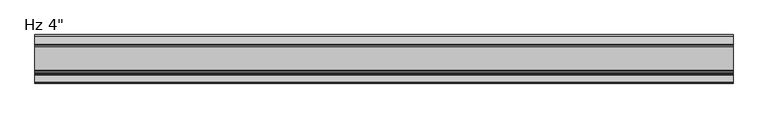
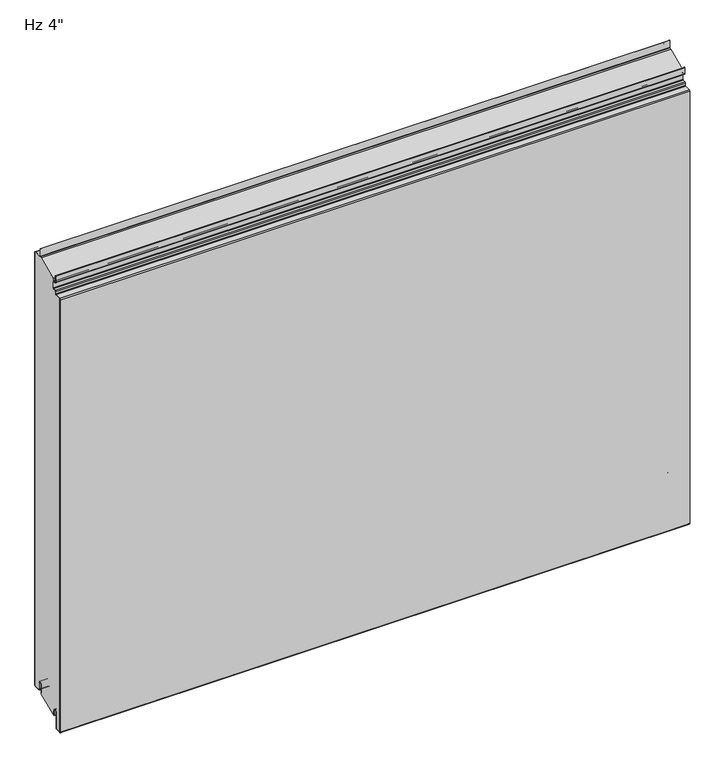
"""IFC4 building model written with IfcOpenShell, lengths in millimetres: plate geometry."""

from ifc_helpers import new_model, si_unit, point, frame, frame_2d, origin, place, context, project, spatial, polyline, circle_curve, ellipse_curve, trimmed, segment, composite_curve, outline, extrude, source, transform, mapped, element, save
from ifc_brep_helpers import plane_surface, cylinder_surface, revolved_surface, extruded_surface, advanced_brep


def plate_90d1a63a(model_context):
    return source(origin(), model_context, "Body", "SolidModel", [
        extrude(outline(composite_curve([segment(trimmed(circle_curve(frame_2d((-21.43125, 19.05)), 4.96875), [point((-16.4625, 19.05))], [point((-26.4, 19.05))], True, "CARTESIAN"), True, "CONTINUOUS"), segment(polyline([(-26.4, 19.05), (-26.4, -3.1323422), (-74.6157227, -23.01875), (-76.2, -23.01875), (-76.2, -13.5080174), (-76.99375, -13.5080174), (-76.7875, -11.9205174)]), True, "CONTINUOUS"), segment(trimmed(circle_curve(frame_2d((-81.75625, -11.9205174)), 4.96875), [point((-76.7875, -11.9205174))], [point((-86.725, -11.9205174))], True, "CARTESIAN"), True, "CONTINUOUS"), segment(polyline([(-86.725, -11.9205174), (-86.725, -50.1038221)]), True, "CONTINUOUS"), segment(trimmed(circle_curve(frame_2d((-88.10625, -50.1038221)), 1.38125), [point((-86.725, -50.1038221))], [point((-88.033961, -51.4831791))], False, "CARTESIAN"), True, "CONTINUOUS"), segment(polyline([(-88.033961, -51.4831791), (-99.146461, -52.0655606)]), True, "CONTINUOUS"), segment(trimmed(circle_curve(frame_2d((-99.21875, -50.6862035)), 1.38125), [point((-99.146461, -52.0655606))], [point((-100.6, -50.6862035))], False, "CARTESIAN"), True, "CONTINUOUS"), segment(polyline([(-100.6, -50.6862035), (-100.6, 1008.1697607)]), True, "CONTINUOUS"), segment(trimmed(circle_curve(frame_2d((-99.21875, 1008.1697607)), 1.38125), [point((-100.6, 1008.1697607))], [point((-99.291039, 1009.5491177))], False, "CARTESIAN"), True, "CONTINUOUS"), segment(polyline([(-99.291039, 1009.5491177), (-85.5895807, 1010.2671807)]), True, "CONTINUOUS"), segment(trimmed(circle_curve(frame_2d((-85.725, 1012.8511347)), 2.5875), [point((-85.5895807, 1010.2671807))], [point((-83.1375, 1012.8511347))], True, "CARTESIAN"), True, "CONTINUOUS"), segment(polyline([(-83.1375, 1012.8511347), (-83.1375, 1017.4824411)]), True, "CONTINUOUS"), segment(trimmed(circle_curve(frame_2d((-81.75625, 1017.4824411)), 1.38125), [point((-83.1375, 1017.4824411))], [point((-81.828539, 1018.8617981))], False, "CARTESIAN"), True, "CONTINUOUS"), segment(polyline([(-81.828539, 1018.8617981), (-76.0645807, 1019.1638744)]), True, "CONTINUOUS"), segment(trimmed(circle_curve(frame_2d((-76.2, 1021.7478283)), 2.5875), [point((-76.0645807, 1019.1638744))], [point((-73.6125, 1021.7478283))], True, "CARTESIAN"), True, "CONTINUOUS"), segment(polyline([(-73.6125, 1021.7478283), (-73.6125, 1044.1892934), (-24.9057308, 1065.00625), (-2.38125, 1065.00625)]), True, "CONTINUOUS"), segment(trimmed(circle_curve(frame_2d((-2.38125, 1063.625)), 1.38125), [point((-2.38125, 1065.00625))], [point((-1.0, 1063.625))], False, "CARTESIAN"), True, "CONTINUOUS"), segment(polyline([(-1.0, 1063.625), (-1.0, 3.175)]), True, "CONTINUOUS"), segment(trimmed(circle_curve(frame_2d((-2.38125, 3.175)), 1.38125), [point((-1.0, 3.175))], [point((-2.38125, 1.79375))], False, "CARTESIAN"), True, "CONTINUOUS"), segment(polyline([(-2.38125, 1.79375), (-15.08125, 1.79375)]), True, "CONTINUOUS"), segment(trimmed(circle_curve(frame_2d((-15.08125, 3.175)), 1.38125), [point((-15.08125, 1.79375))], [point((-16.4625, 3.175))], False, "CARTESIAN"), True, "CONTINUOUS"), segment(polyline([(-16.4625, 3.175), (-16.4625, 19.05)]), True, "CONTINUOUS")], self_intersect=False)), frame((-730.0, 0.0, 0.0), z_axis=(1.0, 0.0, 0.0), x_axis=(0.0, 1.0, 0.0)), (0.0, 0.0, 1.0), 1460.0),
        extrude(outline(composite_curve([segment(polyline([(-25.4, 0.79375), (-26.4, 0.79375), (-26.4, 19.05)]), True, "CONTINUOUS"), segment(trimmed(circle_curve(frame_2d((-21.43125, 19.05)), 4.96875), [point((-26.4, 19.05))], [point((-16.4625, 19.05))], False, "CARTESIAN"), True, "CONTINUOUS"), segment(polyline([(-16.4625, 19.05), (-16.4625, 3.175)]), True, "CONTINUOUS"), segment(trimmed(circle_curve(frame_2d((-15.08125, 3.175)), 1.38125), [point((-16.4625, 3.175))], [point((-15.08125, 1.79375))], True, "CARTESIAN"), True, "CONTINUOUS"), segment(polyline([(-15.08125, 1.79375), (-2.38125, 1.79375)]), True, "CONTINUOUS"), segment(trimmed(circle_curve(frame_2d((-2.38125, 3.175)), 1.38125), [point((-2.38125, 1.79375))], [point((-1.0, 3.175))], True, "CARTESIAN"), True, "CONTINUOUS"), segment(polyline([(-1.0, 3.175), (-1.0, 1063.625)]), True, "CONTINUOUS"), segment(trimmed(circle_curve(frame_2d((-2.38125, 1063.625)), 1.38125), [point((-1.0, 1063.625))], [point((-2.38125, 1065.00625))], True, "CARTESIAN"), True, "CONTINUOUS"), segment(polyline([(-2.38125, 1065.00625), (-19.446875, 1065.00625)]), True, "CONTINUOUS"), segment(trimmed(circle_curve(frame_2d((-19.446875, 1067.59375)), 2.5875), [point((-19.446875, 1065.00625))], [point((-22.034375, 1067.59375))], False, "CARTESIAN"), True, "CONTINUOUS"), segment(polyline([(-22.034375, 1067.59375), (-22.034375, 1085.05625), (-21.034375, 1085.05625), (-21.034375, 1067.59375)]), True, "CONTINUOUS"), segment(trimmed(circle_curve(frame_2d((-19.446875, 1067.59375)), 1.5875), [point((-21.034375, 1067.59375))], [point((-19.446875, 1066.00625))], True, "CARTESIAN"), True, "CONTINUOUS"), segment(polyline([(-19.446875, 1066.00625), (-2.38125, 1066.00625)]), True, "CONTINUOUS"), segment(trimmed(circle_curve(frame_2d((-2.38125, 1063.625)), 2.38125), [point((-2.38125, 1066.00625))], [point((0.0, 1063.625))], False, "CARTESIAN"), True, "CONTINUOUS"), segment(polyline([(0.0, 1063.625), (0.0, 3.175)]), True, "CONTINUOUS"), segment(trimmed(circle_curve(frame_2d((-2.38125, 3.175)), 2.38125), [point((0.0, 3.175))], [point((-2.38125, 0.79375))], False, "CARTESIAN"), True, "CONTINUOUS"), segment(polyline([(-2.38125, 0.79375), (-15.08125, 0.79375)]), True, "CONTINUOUS"), segment(trimmed(circle_curve(frame_2d((-15.08125, 3.175)), 2.38125), [point((-15.08125, 0.79375))], [point((-17.4625, 3.175))], False, "CARTESIAN"), True, "CONTINUOUS"), segment(polyline([(-17.4625, 3.175), (-17.4625, 19.05)]), True, "CONTINUOUS"), segment(trimmed(circle_curve(frame_2d((-21.43125, 19.05)), 3.96875), [point((-17.4625, 19.05))], [point((-25.4, 19.05))], True, "CARTESIAN"), True, "CONTINUOUS"), segment(polyline([(-25.4, 19.05), (-25.4, 0.79375)]), True, "CONTINUOUS")], self_intersect=False)), frame((-730.0, 0.0, 0.0), z_axis=(1.0, 0.0, 0.0), x_axis=(0.0, 1.0, 0.0)), (0.0, 0.0, 1.0), 1460.0),
        advanced_brep(
        [(-730.0, -76.2, -23.2314549), (-730.0, -77.7875, -23.2314549), (-730.0, -77.7875, -11.9205174), (-730.0, -85.725, -11.9205174), (-730.0, -85.725, -50.1038221), (-730.0, -87.981625, -52.4818086), (-730.0, -99.094125, -53.0641901), (-730.0, -101.6, -50.6862035), (-730.0, -101.6, 1008.1697607), (-730.0, -99.343375, 1010.5477473), (-730.0, -85.6419167, 1011.2658103), (-730.0, -84.1375, 1012.8511347), (-730.0, -84.1375, 1017.4824411), (-730.0, -81.880875, 1019.8604276), (-730.0, -76.1169167, 1020.1625039), (-730.0, -74.6125, 1021.7478283), (-730.0, -74.6125, 1036.6232326), (-730.0, -76.2, 1038.2107326), (-730.0, -80.3671875, 1038.2107326), (-730.0, -82.7484375, 1040.5919826), (-730.0, -82.7484375, 1055.0836032), (-730.0, -80.9546875, 1055.0836032), (-730.0, -80.9546875, 1045.3544826), (-730.0, -81.7484375, 1045.3544826), (-730.0, -81.7484375, 1040.5919826), (-730.0, -80.3671875, 1039.2107326), (-730.0, -76.2, 1039.2107326), (-730.0, -73.6125, 1036.6232326), (-730.0, -73.6125, 1021.7478283), (-730.0, -76.0645807, 1019.1638744), (-730.0, -81.828539, 1018.8617981), (-730.0, -83.1375, 1017.4824411), (-730.0, -83.1375, 1012.8511347), (-730.0, -85.5895807, 1010.2671807), (-730.0, -99.291039, 1009.5491177), (-730.0, -100.6, 1008.1697607), (-730.0, -100.6, -50.6862035), (-730.0, -99.146461, -52.0655606), (-730.0, -88.033961, -51.4831791), (-730.0, -86.725, -50.1038221), (-730.0, -86.725, -11.9205174), (-730.0, -76.7875, -11.9205174), (-730.0, -76.99375, -13.5080174), (-730.0, -76.2, -13.5080174), (730.0, -76.2, -23.2314549), (730.0, -76.2, -13.5080174), (730.0, -76.99375, -13.5080174), (730.0, -76.7875, -11.9205174), (730.0, -86.725, -11.9205174), (730.0, -86.725, -50.1038221), (730.0, -88.033961, -51.4831791), (730.0, -99.146461, -52.0655606), (730.0, -100.6, -50.6862035), (730.0, -100.6, 1008.1697607), (730.0, -99.291039, 1009.5491177), (730.0, -85.5895807, 1010.2671807), (730.0, -83.1375, 1012.8511347), (730.0, -83.1375, 1017.4824411), (730.0, -81.828539, 1018.8617981), (730.0, -76.0645807, 1019.1638744), (730.0, -73.6125, 1021.7478283), (730.0, -73.6125, 1036.6232326), (730.0, -76.2, 1039.2107326), (730.0, -80.3671875, 1039.2107326), (730.0, -81.7484375, 1040.5919826), (730.0, -81.7484375, 1045.3544826), (730.0, -80.9546875, 1045.3544826), (730.0, -80.9546875, 1055.0836032), (730.0, -82.7484375, 1055.0836032), (730.0, -82.7484375, 1040.5919826), (730.0, -80.3671875, 1038.2107326), (730.0, -76.2, 1038.2107326), (730.0, -74.6125, 1036.6232326), (730.0, -74.6125, 1021.7478283), (730.0, -76.1169167, 1020.1625039), (730.0, -81.880875, 1019.8604276), (730.0, -84.1375, 1017.4824411), (730.0, -84.1375, 1012.8511347), (730.0, -85.6419167, 1011.2658103), (730.0, -99.343375, 1010.5477473), (730.0, -101.6, 1008.1697607), (730.0, -101.6, -50.6862035), (730.0, -99.094125, -53.0641901), (730.0, -87.981625, -52.4818086), (730.0, -85.725, -50.1038221), (730.0, -85.725, -11.9205174), (730.0, -77.7875, -11.9205174), (730.0, -77.7875, -23.2314549)],
        [
            (0, 1, circle_curve(frame((-730.0, -76.99375, -23.2314549), z_axis=(-1.0, 0.0, 0.0), x_axis=(0.0, 0.0, -1.0)), 0.79375)),
            (1, 2),
            (2, 3, circle_curve(frame((-730.0, -81.75625, -11.9205174), z_axis=(1.0, 0.0, 0.0), x_axis=(0.0, 0.0, -1.0)), 3.96875)),
            (3, 4),
            (4, 5, circle_curve(frame((-730.0, -88.10625, -50.1038221), z_axis=(-1.0, 0.0, 0.0), x_axis=(0.0, 0.0, -1.0)), 2.38125)),
            (5, 6),
            (6, 7, circle_curve(frame((-730.0, -99.21875, -50.6862035), z_axis=(-1.0, 0.0, 0.0), x_axis=(0.0, 0.0, -1.0)), 2.38125)),
            (7, 8),
            (8, 9, circle_curve(frame((-730.0, -99.21875, 1008.1697607), z_axis=(-1.0, 0.0, 0.0), x_axis=(0.0, 0.0, -1.0)), 2.38125)),
            (9, 10),
            (10, 11, circle_curve(frame((-730.0, -85.725, 1012.8511347), z_axis=(1.0, 0.0, 0.0), x_axis=(0.0, 0.0, -1.0)), 1.5875)),
            (11, 12),
            (12, 13, circle_curve(frame((-730.0, -81.75625, 1017.4824411), z_axis=(-1.0, 0.0, 0.0), x_axis=(0.0, 0.0, -1.0)), 2.38125)),
            (13, 14),
            (14, 15, circle_curve(frame((-730.0, -76.2, 1021.7478283), z_axis=(1.0, 0.0, 0.0), x_axis=(0.0, 0.0, -1.0)), 1.5875)),
            (15, 16),
            (16, 17, circle_curve(frame((-730.0, -76.2, 1036.6232326), z_axis=(1.0, 0.0, 0.0), x_axis=(0.0, 0.0, -1.0)), 1.5875)),
            (17, 18),
            (18, 19, circle_curve(frame((-730.0, -80.3671875, 1040.5919826), z_axis=(-1.0, 0.0, 0.0), x_axis=(0.0, 0.0, -1.0)), 2.38125)),
            (19, 20),
            (20, 21, ellipse_curve(frame((-730.0, -81.8515625, 1055.0836032), z_axis=(-1.0, 0.0, 0.0), x_axis=(0.0, 1.0, 0.0)), 0.896875, 0.7852275)),
            (21, 22),
            (22, 23),
            (23, 24),
            (24, 25, circle_curve(frame((-730.0, -80.3671875, 1040.5919826), z_axis=(1.0, 0.0, 0.0), x_axis=(0.0, 0.0, -1.0)), 1.38125)),
            (25, 26),
            (26, 27, circle_curve(frame((-730.0, -76.2, 1036.6232326), z_axis=(-1.0, 0.0, 0.0), x_axis=(0.0, 0.0, -1.0)), 2.5875)),
            (27, 28),
            (28, 29, circle_curve(frame((-730.0, -76.2, 1021.7478283), z_axis=(-1.0, 0.0, 0.0), x_axis=(0.0, 0.0, -1.0)), 2.5875)),
            (29, 30),
            (30, 31, circle_curve(frame((-730.0, -81.75625, 1017.4824411), z_axis=(1.0, 0.0, 0.0), x_axis=(0.0, 0.0, -1.0)), 1.38125)),
            (31, 32),
            (32, 33, circle_curve(frame((-730.0, -85.725, 1012.8511347), z_axis=(-1.0, 0.0, 0.0), x_axis=(0.0, 0.0, -1.0)), 2.5875)),
            (33, 34),
            (34, 35, circle_curve(frame((-730.0, -99.21875, 1008.1697607), z_axis=(1.0, 0.0, 0.0), x_axis=(0.0, 0.0, -1.0)), 1.38125)),
            (35, 36),
            (36, 37, circle_curve(frame((-730.0, -99.21875, -50.6862035), z_axis=(1.0, 0.0, 0.0), x_axis=(0.0, 0.0, -1.0)), 1.38125)),
            (37, 38),
            (38, 39, circle_curve(frame((-730.0, -88.10625, -50.1038221), z_axis=(1.0, 0.0, 0.0), x_axis=(0.0, 0.0, -1.0)), 1.38125)),
            (39, 40),
            (40, 41, circle_curve(frame((-730.0, -81.75625, -11.9205174), z_axis=(-1.0, 0.0, 0.0), x_axis=(0.0, 0.0, -1.0)), 4.96875)),
            (41, 42),
            (42, 43),
            (43, 0),
            (44, 45),
            (45, 46),
            (46, 47),
            (47, 48, circle_curve(frame((730.0, -81.75625, -11.9205174), z_axis=(1.0, 0.0, 0.0), x_axis=(0.0, 0.0, -1.0)), 4.96875)),
            (48, 49),
            (49, 50, circle_curve(frame((730.0, -88.10625, -50.1038221), z_axis=(-1.0, 0.0, 0.0), x_axis=(0.0, 0.0, -1.0)), 1.38125)),
            (50, 51),
            (51, 52, circle_curve(frame((730.0, -99.21875, -50.6862035), z_axis=(-1.0, 0.0, 0.0), x_axis=(0.0, 0.0, -1.0)), 1.38125)),
            (52, 53),
            (53, 54, circle_curve(frame((730.0, -99.21875, 1008.1697607), z_axis=(-1.0, 0.0, 0.0), x_axis=(0.0, 0.0, -1.0)), 1.38125)),
            (54, 55),
            (55, 56, circle_curve(frame((730.0, -85.725, 1012.8511347), z_axis=(1.0, 0.0, 0.0), x_axis=(0.0, 0.0, -1.0)), 2.5875)),
            (56, 57),
            (57, 58, circle_curve(frame((730.0, -81.75625, 1017.4824411), z_axis=(-1.0, 0.0, 0.0), x_axis=(0.0, 0.0, -1.0)), 1.38125)),
            (58, 59),
            (59, 60, circle_curve(frame((730.0, -76.2, 1021.7478283), z_axis=(1.0, 0.0, 0.0), x_axis=(0.0, 0.0, -1.0)), 2.5875)),
            (60, 61),
            (61, 62, circle_curve(frame((730.0, -76.2, 1036.6232326), z_axis=(1.0, 0.0, 0.0), x_axis=(0.0, 0.0, -1.0)), 2.5875)),
            (62, 63),
            (63, 64, circle_curve(frame((730.0, -80.3671875, 1040.5919826), z_axis=(-1.0, 0.0, 0.0), x_axis=(0.0, 0.0, -1.0)), 1.38125)),
            (64, 65),
            (65, 66),
            (66, 67),
            (67, 68, ellipse_curve(frame((730.0, -81.8515625, 1055.0836032), z_axis=(1.0, 0.0, 0.0), x_axis=(0.0, 1.0, 0.0)), 0.896875, 0.7852275)),
            (68, 69),
            (69, 70, circle_curve(frame((730.0, -80.3671875, 1040.5919826), z_axis=(1.0, 0.0, 0.0), x_axis=(0.0, 0.0, -1.0)), 2.38125)),
            (70, 71),
            (71, 72, circle_curve(frame((730.0, -76.2, 1036.6232326), z_axis=(-1.0, 0.0, 0.0), x_axis=(0.0, 0.0, -1.0)), 1.5875)),
            (72, 73),
            (73, 74, circle_curve(frame((730.0, -76.2, 1021.7478283), z_axis=(-1.0, 0.0, 0.0), x_axis=(0.0, 0.0, -1.0)), 1.5875)),
            (74, 75),
            (75, 76, circle_curve(frame((730.0, -81.75625, 1017.4824411), z_axis=(1.0, 0.0, 0.0), x_axis=(0.0, 0.0, -1.0)), 2.38125)),
            (76, 77),
            (77, 78, circle_curve(frame((730.0, -85.725, 1012.8511347), z_axis=(-1.0, 0.0, 0.0), x_axis=(0.0, 0.0, -1.0)), 1.5875)),
            (78, 79),
            (79, 80, circle_curve(frame((730.0, -99.21875, 1008.1697607), z_axis=(1.0, 0.0, 0.0), x_axis=(0.0, 0.0, -1.0)), 2.38125)),
            (80, 81),
            (81, 82, circle_curve(frame((730.0, -99.21875, -50.6862035), z_axis=(1.0, 0.0, 0.0), x_axis=(0.0, 0.0, -1.0)), 2.38125)),
            (82, 83),
            (83, 84, circle_curve(frame((730.0, -88.10625, -50.1038221), z_axis=(1.0, 0.0, 0.0), x_axis=(0.0, 0.0, -1.0)), 2.38125)),
            (84, 85),
            (85, 86, circle_curve(frame((730.0, -81.75625, -11.9205174), z_axis=(-1.0, 0.0, 0.0), x_axis=(0.0, 0.0, -1.0)), 3.96875)),
            (86, 87),
            (87, 44, circle_curve(frame((730.0, -76.99375, -23.2314549), z_axis=(1.0, 0.0, 0.0), x_axis=(0.0, 0.0, -1.0)), 0.79375)),
            (36, 52),
            (51, 37),
            (50, 38),
            (49, 39),
            (48, 40),
            (47, 41),
            (42, 46),
            (45, 43),
            (22, 66),
            (65, 23),
            (21, 67),
            (20, 68),
            (34, 54),
            (53, 35),
            (32, 56),
            (55, 33),
            (30, 58),
            (57, 31),
            (28, 60),
            (59, 29),
            (24, 64),
            (63, 25),
            (26, 62),
            (61, 27),
            (19, 69),
            (17, 71),
            (70, 18),
            (15, 73),
            (72, 16),
            (13, 75),
            (74, 14),
            (11, 77),
            (76, 12),
            (9, 79),
            (78, 10),
            (7, 81),
            (80, 8),
            (5, 83),
            (82, 6),
            (3, 85),
            (84, 4),
            (1, 87),
            (86, 2),
            (44, 0),
        ],
        [
            plane_surface(frame((-730.0, -101.6, 533.4), z_axis=(-1.0, 0.0, 0.0), x_axis=(0.0, -1.0, 0.0))),
            plane_surface(frame((730.0, -101.6, 533.4), z_axis=(1.0, 0.0, 0.0), x_axis=(0.0, -1.0, 0.0))),
            revolved_surface(polyline([(730.0, -99.21875, -52.0674535), (-730.0, -99.21875, -52.0674535)]), (-730.0, -99.21875, -50.6862035), (1.0, 0.0, 0.0)),
            plane_surface(frame((-730.0, -88.033961, -51.4831791), z_axis=(0.0, -0.05233595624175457, 0.9986295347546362), x_axis=(1.0, 0.0, 0.0))),
            revolved_surface(polyline([(730.0, -88.10625, -51.485072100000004), (-730.0, -88.10625, -51.485072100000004)]), (-730.0, -88.10625, -50.1038221), (1.0, 0.0, 0.0)),
            plane_surface(frame((-730.0, -86.725, -11.9205174), z_axis=(0.0, -1.0, 0.0), x_axis=(1.0, 0.0, 0.0))),
            cylinder_surface(frame((-730.0, -81.75625, -11.9205174), z_axis=(-1.0, 0.0, 0.0), x_axis=(0.0, 0.0, -1.0)), 4.96875),
            plane_surface(frame((-730.0, -76.2, -13.5080174), z_axis=(0.0, 0.0, 1.0), x_axis=(1.0, 0.0, 0.0))),
            plane_surface(frame((-730.0, -76.99375, -13.5080174), z_axis=(0.0, 0.9916655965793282, -0.1288384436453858), x_axis=(1.0, 0.0, 0.0))),
            plane_surface(frame((-730.0, -81.7484375, 1045.3544826), z_axis=(0.0, 0.0, -1.0), x_axis=(1.0, 0.0, 0.0))),
            plane_surface(frame((-730.0, -80.9546875, 1045.3544826), z_axis=(0.0, 1.0, 0.0), x_axis=(1.0, 0.0, 0.0))),
            extruded_surface(trimmed(ellipse_curve(frame((-730.0, -81.8515625, 1055.0836032), z_axis=(1.0, 0.0, 0.0), x_axis=(0.0, 1.0, 0.0)), 0.896875, 0.7852275), [point((-730.0, -80.9546875, 1055.0836032))], [point((-730.0, -82.7484375, 1055.0836032))], True, "CARTESIAN"), (1460.0, 0.0, 0.0), 1460.0),
            revolved_surface(polyline([(730.0, -99.21875, 1006.7885107), (-730.0, -99.21875, 1006.7885107)]), (-730.0, -99.21875, 1008.1697607), (1.0, 0.0, 0.0)),
            cylinder_surface(frame((-730.0, -85.725, 1012.8511347), z_axis=(-1.0, 0.0, 0.0), x_axis=(0.0, 0.0, -1.0)), 2.5875),
            plane_surface(frame((-730.0, -99.291039, 1009.5491177), z_axis=(0.0, 0.05233595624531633, -0.9986295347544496), x_axis=(1.0, 0.0, 0.0))),
            plane_surface(frame((-730.0, -100.6, -50.6862035), z_axis=(0.0, 1.0, 0.0), x_axis=(1.0, 0.0, 0.0))),
            revolved_surface(polyline([(730.0, -81.75625, 1016.1011910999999), (-730.0, -81.75625, 1016.1011910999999)]), (-730.0, -81.75625, 1017.4824411), (1.0, 0.0, 0.0)),
            cylinder_surface(frame((-730.0, -76.2, 1021.7478283), z_axis=(-1.0, 0.0, 0.0), x_axis=(0.0, 0.0, -1.0)), 2.5875),
            plane_surface(frame((-730.0, -81.828539, 1018.8617981), z_axis=(0.0, 0.052335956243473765, -0.9986295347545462), x_axis=(1.0, 0.0, 0.0))),
            plane_surface(frame((-730.0, -83.1375, 1012.8511347), z_axis=(0.0, 1.0, 0.0), x_axis=(1.0, 0.0, 0.0))),
            revolved_surface(polyline([(730.0, -80.3671875, 1039.2107326), (-730.0, -80.3671875, 1039.2107326)]), (-730.0, -80.3671875, 1040.5919826), (1.0, 0.0, 0.0)),
            cylinder_surface(frame((-730.0, -76.2, 1036.6232326), z_axis=(-1.0, 0.0, 0.0), x_axis=(0.0, 0.0, -1.0)), 2.5875),
            plane_surface(frame((-730.0, -76.2, 1039.2107326), z_axis=(0.0, 0.0, 1.0), x_axis=(1.0, 0.0, 0.0))),
            plane_surface(frame((-730.0, -81.7484375, 1040.5919826), z_axis=(0.0, 1.0, 0.0), x_axis=(1.0, 0.0, 0.0))),
            plane_surface(frame((-730.0, -82.7484375, 1055.0836032), z_axis=(0.0, -1.0, 0.0), x_axis=(1.0, 0.0, 0.0))),
            plane_surface(frame((-730.0, -80.3671875, 1038.2107326), z_axis=(0.0, 0.0, -1.0), x_axis=(1.0, 0.0, 0.0))),
            cylinder_surface(frame((-730.0, -80.3671875, 1040.5919826), z_axis=(-1.0, 0.0, 0.0), x_axis=(0.0, 0.0, -1.0)), 2.38125),
            plane_surface(frame((-730.0, -73.6125, 1021.7478283), z_axis=(0.0, 1.0, 0.0), x_axis=(1.0, 0.0, 0.0))),
            plane_surface(frame((-730.0, -74.6125, 1036.6232326), z_axis=(0.0, -1.0, 0.0), x_axis=(1.0, 0.0, 0.0))),
            plane_surface(frame((-730.0, -76.1169167, 1020.1625039), z_axis=(0.0, -0.05233595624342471, 0.9986295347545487), x_axis=(1.0, 0.0, 0.0))),
            revolved_surface(polyline([(730.0, -76.2, 1020.1603283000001), (-730.0, -76.2, 1020.1603283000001)]), (-730.0, -76.2, 1021.7478283), (1.0, 0.0, 0.0)),
            revolved_surface(polyline([(730.0, -76.2, 1035.0357325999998), (-730.0, -76.2, 1035.0357325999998)]), (-730.0, -76.2, 1036.6232326), (1.0, 0.0, 0.0)),
            plane_surface(frame((-730.0, -84.1375, 1017.4824411), z_axis=(0.0, -1.0, 0.0), x_axis=(1.0, 0.0, 0.0))),
            plane_surface(frame((-730.0, -85.6419167, 1011.2658103), z_axis=(0.0, -0.05233595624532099, 0.9986295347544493), x_axis=(1.0, 0.0, 0.0))),
            revolved_surface(polyline([(730.0, -85.725, 1011.2636347), (-730.0, -85.725, 1011.2636347)]), (-730.0, -85.725, 1012.8511347), (1.0, 0.0, 0.0)),
            cylinder_surface(frame((-730.0, -81.75625, 1017.4824411), z_axis=(-1.0, 0.0, 0.0), x_axis=(0.0, 0.0, -1.0)), 2.38125),
            plane_surface(frame((-730.0, -101.6, 1008.1697607), z_axis=(0.0, -1.0, 0.0), x_axis=(1.0, 0.0, 0.0))),
            plane_surface(frame((-730.0, -99.094125, -53.0641901), z_axis=(0.0, 0.05233595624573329, -0.9986295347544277), x_axis=(1.0, 0.0, 0.0))),
            cylinder_surface(frame((-730.0, -99.21875, -50.6862035), z_axis=(-1.0, 0.0, 0.0), x_axis=(0.0, 0.0, -1.0)), 2.38125),
            cylinder_surface(frame((-730.0, -99.21875, 1008.1697607), z_axis=(-1.0, 0.0, 0.0), x_axis=(0.0, 0.0, -1.0)), 2.38125),
            plane_surface(frame((-730.0, -85.725, -50.1038221), z_axis=(0.0, 1.0, 0.0), x_axis=(1.0, 0.0, 0.0))),
            plane_surface(frame((-730.0, -77.7875, -11.9205174), z_axis=(0.0, -1.0, 0.0), x_axis=(1.0, 0.0, 0.0))),
            revolved_surface(polyline([(730.0, -81.75625, -15.8892674), (-730.0, -81.75625, -15.8892674)]), (-730.0, -81.75625, -11.9205174), (1.0, 0.0, 0.0)),
            cylinder_surface(frame((-730.0, -88.10625, -50.1038221), z_axis=(-1.0, 0.0, 0.0), x_axis=(0.0, 0.0, -1.0)), 2.38125),
            plane_surface(frame((-730.0, -76.2, -23.2314549), z_axis=(0.0, 1.0, 0.0), x_axis=(1.0, 0.0, 0.0))),
            cylinder_surface(frame((-730.0, -76.99375, -23.2314549), z_axis=(-1.0, 0.0, 0.0), x_axis=(0.0, 0.0, -1.0)), 0.79375),
        ],
        [
            (0, [[1, 2, 3, 4, 5, 6, 7, 8, 9, 10, 11, 12, 13, 14, 15, 16, 17, 18, 19, 20, 21, 22, 23, 24, 25, 26, 27, 28, 29, 30, 31, 32, 33, 34, 35, 36, 37, 38, 39, 40, 41, 42, 43, 44]]),
            (1, [[45, 46, 47, 48, 49, 50, 51, 52, 53, 54, 55, 56, 57, 58, 59, 60, 61, 62, 63, 64, 65, 66, 67, 68, 69, 70, 71, 72, 73, 74, 75, 76, 77, 78, 79, 80, 81, 82, 83, 84, 85, 86, 87, 88]]),
            (2, [[89, -52, 90, -37]]),
            (3, [[-90, -51, 91, -38]]),
            (4, [[-91, -50, 92, -39]]),
            (5, [[-92, -49, 93, -40]]),
            (6, [[-93, -48, 94, -41]]),
            (7, [[95, -46, 96, -43]]),
            (8, [[-94, -47, -95, -42]]),
            (9, [[97, -66, 98, -23]]),
            (10, [[99, -67, -97, -22]]),
            (11, [[100, -68, -99, -21]]),
            (12, [[101, -54, 102, -35]]),
            (13, [[103, -56, 104, -33]]),
            (14, [[-104, -55, -101, -34]]),
            (15, [[-102, -53, -89, -36]]),
            (16, [[105, -58, 106, -31]]),
            (17, [[107, -60, 108, -29]]),
            (18, [[-108, -59, -105, -30]]),
            (19, [[-106, -57, -103, -32]]),
            (20, [[109, -64, 110, -25]]),
            (21, [[111, -62, 112, -27]]),
            (22, [[-110, -63, -111, -26]]),
            (23, [[-98, -65, -109, -24]]),
            (24, [[113, -69, -100, -20]]),
            (25, [[114, -71, 115, -18]]),
            (26, [[-115, -70, -113, -19]]),
            (27, [[-112, -61, -107, -28]]),
            (28, [[116, -73, 117, -16]]),
            (29, [[118, -75, 119, -14]]),
            (30, [[-119, -74, -116, -15]]),
            (31, [[-117, -72, -114, -17]]),
            (32, [[120, -77, 121, -12]]),
            (33, [[122, -79, 123, -10]]),
            (34, [[-123, -78, -120, -11]]),
            (35, [[-121, -76, -118, -13]]),
            (36, [[124, -81, 125, -8]]),
            (37, [[126, -83, 127, -6]]),
            (38, [[-127, -82, -124, -7]]),
            (39, [[-125, -80, -122, -9]]),
            (40, [[128, -85, 129, -4]]),
            (41, [[130, -87, 131, -2]]),
            (42, [[-131, -86, -128, -3]]),
            (43, [[-129, -84, -126, -5]]),
            (44, [[-96, -45, 132, -44]]),
            (45, [[-132, -88, -130, -1]]),
        ],
    ),
    ])


if __name__ == "__main__":
    model = new_model("IFC4")
    model_context = context("Model", 3, world=origin())
    ifc_project = project(units=[si_unit("LENGTHUNIT", "METRE", prefix="MILLI")], contexts=[model_context])
    site = spatial("IfcSite", under=ifc_project)
    building = spatial("IfcBuilding", under=site)
    placement = place(None, origin())
    plate_shape = plate_90d1a63a(model_context)
    element("IfcPlate", 1, ObjectType="KIP-42-DWTR-R19-CP-Hz-F : Hz 4\"", at=placement, inside=building, context=model_context, shape_type="MappedRepresentation", body=[
        mapped(plate_shape, transform((0.0, 0.0, 0.0), x_axis=(1.0, 0.0, 0.0), y_axis=(0.0, 1.0, 0.0), z_axis=(0.0, 0.0, 1.0))),
    ])
    save(model, "model.ifc")
